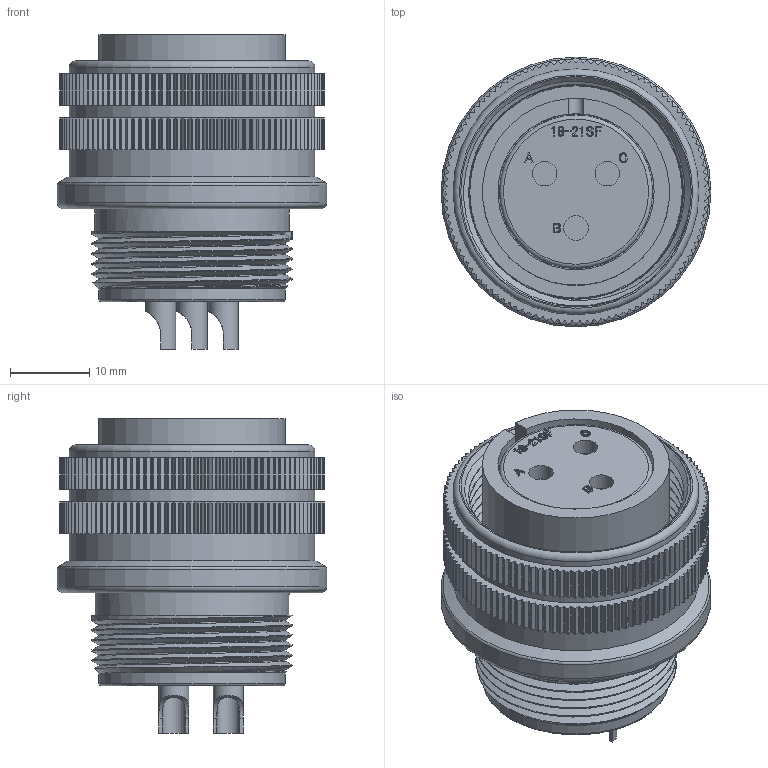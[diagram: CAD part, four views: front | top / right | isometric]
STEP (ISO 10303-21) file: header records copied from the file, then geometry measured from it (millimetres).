
FILE_DESCRIPTION (( 'STEP AP203' ), '1' );
FILE_NAME ('DMS3106A18-21S(D190).STEP', '2021-02-10T00:43:24', ( '' ), ( '' ), 'SwSTEP 2.0', 'SolidWorks 2018', '' );
FILE_SCHEMA (( 'CONFIG_CONTROL_DESIGN' ));
Products named in the file (1): DMS3106A18-21S(D190)
Bounding box: 34.08 x 34.08 x 39.75 mm (x, y, z)
Volume: 18948.1 mm3; surface area: 13124.1 mm2
Topology: 1 solids, 1 shells, 1826 faces, 5295 edges, 3526 vertices
Faces by surface type: cylinder 935, plane 646, bspline 232, torus 10, cone 3
Full cylindrical faces by diameter (mm): 2.85 x3, 3.1 x3, 3.79 x3, 3.9 x3, 17.45 x1, 19.33 x1, 19.72 x1, 21.05 x1, 23.5 x1, 24.53 x1, 25.43 x1, 26.82 x1, 27.02 x1, 27.83 x1, 31.04 x3, 34.08 x1
Entity records: 69818 total; most frequent: CARTESIAN_POINT 21686, ORIENTED_EDGE 10474, DIRECTION 9801, EDGE_CURVE 5237, VERTEX_POINT 3504, AXIS2_PLACEMENT_3D 3460, LINE 2881, VECTOR 2881
